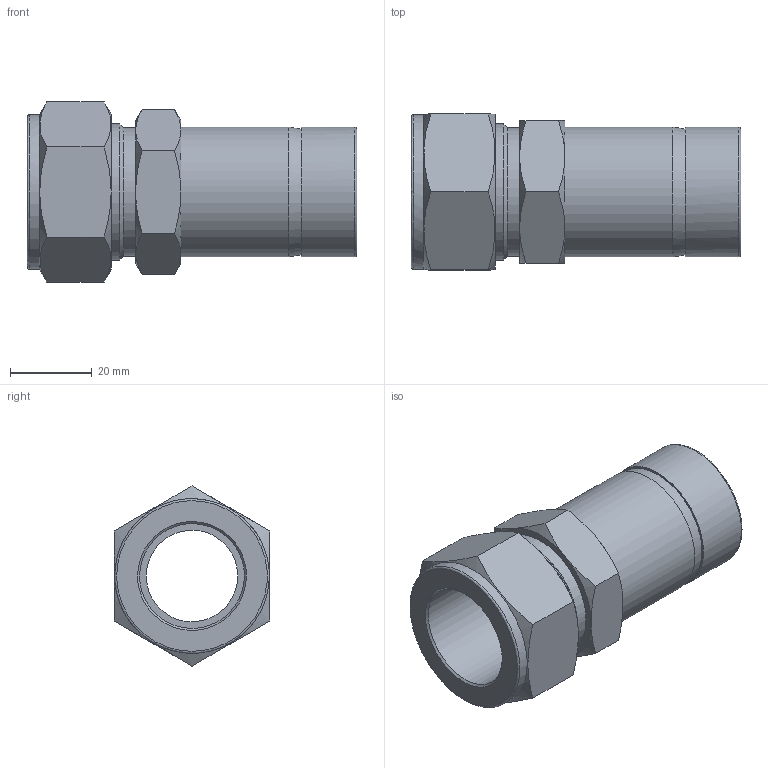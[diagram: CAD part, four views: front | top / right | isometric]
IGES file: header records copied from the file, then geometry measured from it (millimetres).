
Global section: file name: SR-16-20; native system: Autodesk Inventor 2016; preprocessor: unknown; author: DESIGNPC2; date: 20151113.085953; units: millimetre
Bounding box: 80.56 x 38.1 x 43.99 mm (x, y, z)
Volume: 35029.1 mm3; surface area: 17235.5 mm2
Topology: 1 solids, 1 shells, 47 faces, 122 edges, 82 vertices
Faces by surface type: bspline 47
